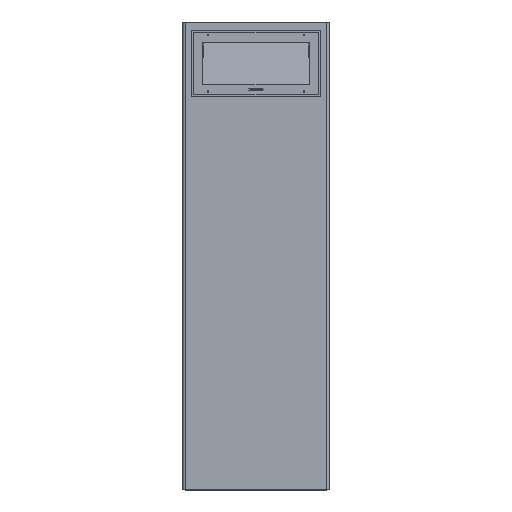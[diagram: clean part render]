
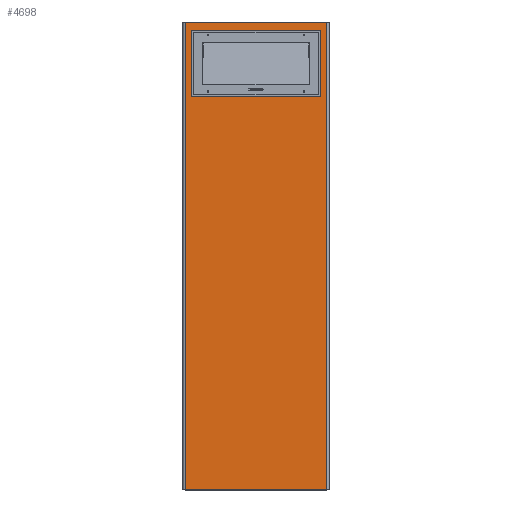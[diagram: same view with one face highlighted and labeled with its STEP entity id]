
A CAD part, top view. The second image highlights one B-rep face of the part: STEP entity #4698.
In plain terms, the highlighted planar face has unit normal (0, 0, 1).
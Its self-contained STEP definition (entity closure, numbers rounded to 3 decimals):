
#3946=DIRECTION('',(1.,0.,0.));
#3947=VECTOR('',#3946,242.);
#3948=CARTESIAN_POINT('',(-121.,-729.25,56.448));
#3949=LINE('',#3948,#3947);
#3986=DIRECTION('',(0.,-1.,0.));
#3987=VECTOR('',#3986,113.);
#3988=CARTESIAN_POINT('',(-110.75,56.5,56.448));
#3989=LINE('',#3988,#3987);
#3990=DIRECTION('',(1.,0.,0.));
#3991=VECTOR('',#3990,221.5);
#3992=CARTESIAN_POINT('',(-110.75,-56.5,56.448));
#3993=LINE('',#3992,#3991);
#3994=DIRECTION('',(0.,1.,0.));
#3995=VECTOR('',#3994,113.);
#3996=CARTESIAN_POINT('',(110.75,-56.5,56.448));
#3997=LINE('',#3996,#3995);
#3998=DIRECTION('',(-1.,0.,0.));
#3999=VECTOR('',#3998,221.5);
#4000=CARTESIAN_POINT('',(110.75,56.5,56.448));
#4001=LINE('',#4000,#3999);
#4002=DIRECTION('',(0.,-1.,0.));
#4003=VECTOR('',#4002,800.);
#4004=CARTESIAN_POINT('',(121.,70.75,56.448));
#4005=LINE('',#4004,#4003);
#4006=DIRECTION('',(0.,-1.,0.));
#4007=VECTOR('',#4006,800.);
#4008=CARTESIAN_POINT('',(-121.,70.75,56.448));
#4009=LINE('',#4008,#4007);
#4079=DIRECTION('',(1.,0.,0.));
#4080=VECTOR('',#4079,242.);
#4081=CARTESIAN_POINT('',(-121.,70.75,56.448));
#4082=LINE('',#4081,#4080);
#4467=CARTESIAN_POINT('',(121.,-729.25,56.448));
#4469=VERTEX_POINT('',#4467);
#4470=CARTESIAN_POINT('',(121.,70.75,56.448));
#4471=VERTEX_POINT('',#4470);
#4474=CARTESIAN_POINT('',(-121.,-729.25,56.448));
#4476=VERTEX_POINT('',#4474);
#4480=CARTESIAN_POINT('',(-121.,70.75,56.448));
#4481=VERTEX_POINT('',#4480);
#4538=CARTESIAN_POINT('',(-110.75,56.5,56.448));
#4539=CARTESIAN_POINT('',(-110.75,-56.5,56.448));
#4540=VERTEX_POINT('',#4538);
#4541=VERTEX_POINT('',#4539);
#4542=CARTESIAN_POINT('',(110.75,-56.5,56.448));
#4543=CARTESIAN_POINT('',(110.75,56.5,56.448));
#4544=VERTEX_POINT('',#4542);
#4545=VERTEX_POINT('',#4543);
#4675=CARTESIAN_POINT('',(-125.,-729.25,56.448));
#4676=DIRECTION('',(0.,0.,1.));
#4677=DIRECTION('',(1.,0.,0.));
#4678=AXIS2_PLACEMENT_3D('',#4675,#4676,#4677);
#4679=PLANE('',#4678);
#4680=ORIENTED_EDGE('',*,*,#4666,.T.);
#4681=ORIENTED_EDGE('',*,*,#4637,.F.);
#4683=ORIENTED_EDGE('',*,*,#4682,.F.);
#4685=ORIENTED_EDGE('',*,*,#4684,.T.);
#4686=EDGE_LOOP('',(#4680,#4681,#4683,#4685));
#4687=FACE_OUTER_BOUND('',#4686,.F.);
#4689=ORIENTED_EDGE('',*,*,#4688,.T.);
#4691=ORIENTED_EDGE('',*,*,#4690,.T.);
#4693=ORIENTED_EDGE('',*,*,#4692,.T.);
#4695=ORIENTED_EDGE('',*,*,#4694,.T.);
#4696=EDGE_LOOP('',(#4689,#4691,#4693,#4695));
#4697=FACE_BOUND('',#4696,.F.);
#4698=ADVANCED_FACE('',(#4687,#4697),#4679,.T.);
#4637=EDGE_CURVE('',#4476,#4469,#3949,.T.);
#4666=EDGE_CURVE('',#4471,#4469,#4005,.T.);
#4682=EDGE_CURVE('',#4481,#4476,#4009,.T.);
#4684=EDGE_CURVE('',#4481,#4471,#4082,.T.);
#4688=EDGE_CURVE('',#4540,#4541,#3989,.T.);
#4690=EDGE_CURVE('',#4541,#4544,#3993,.T.);
#4692=EDGE_CURVE('',#4544,#4545,#3997,.T.);
#4694=EDGE_CURVE('',#4545,#4540,#4001,.T.);
